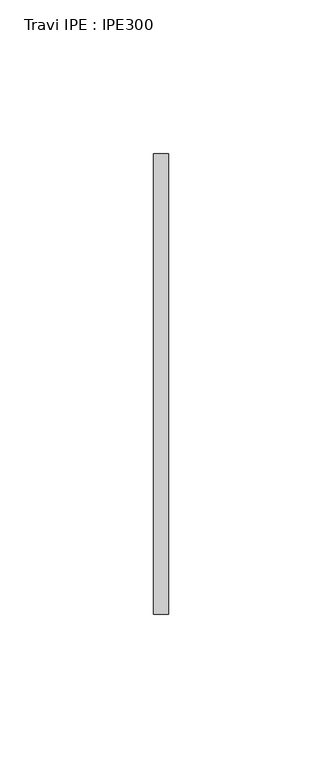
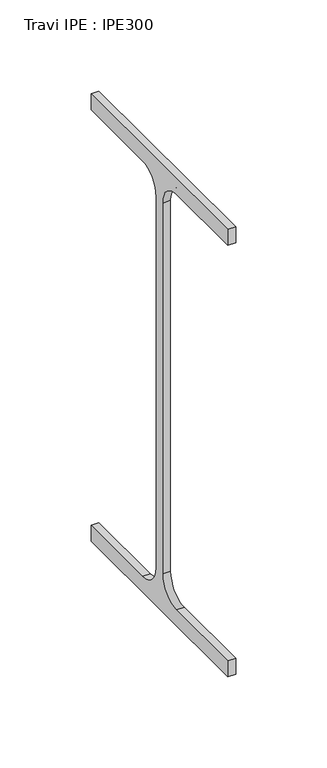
"""IFC4 building model written with IfcOpenShell, lengths in millimetres: beam geometry, Travi IPE : IPE300."""

from ifc_helpers import new_model, si_unit, point, frame, frame_2d, origin, place, context, project, spatial, polyline, circle_curve, trimmed, segment, composite_curve, outline, extrude, source, transform, mapped, element, save


def travi_ipe_ipe300_970f63a0(model_context):
    return source(origin(), model_context, "Body", "SweptSolid", [
        extrude(outline(composite_curve([segment(polyline([(75.0, -139.3), (75.0, -150.0), (-75.0, -150.0), (-75.0, -139.3), (-18.55, -139.3)]), True, "CONTINUOUS"), segment(trimmed(circle_curve(frame_2d((-18.55, -124.3)), 15.0), [point((-18.55, -139.3))], [point((-3.55, -124.3))], True, "CARTESIAN"), True, "CONTINUOUS"), segment(polyline([(-3.55, -124.3), (-3.55, 124.3)]), True, "CONTINUOUS"), segment(trimmed(circle_curve(frame_2d((-18.55, 124.3)), 15.0), [point((-3.55, 124.3))], [point((-18.55, 139.3))], True, "CARTESIAN"), True, "CONTINUOUS"), segment(polyline([(-18.55, 139.3), (-75.0, 139.3), (-75.0, 150.0), (75.0, 150.0), (75.0, 139.3), (18.55, 139.3)]), True, "CONTINUOUS"), segment(trimmed(circle_curve(frame_2d((18.55, 124.3)), 15.0), [point((18.55, 139.3))], [point((3.55, 124.3))], True, "CARTESIAN"), True, "CONTINUOUS"), segment(polyline([(3.55, 124.3), (3.55, -124.3)]), True, "CONTINUOUS"), segment(trimmed(circle_curve(frame_2d((18.55, -124.3)), 15.0), [point((3.55, -124.3))], [point((18.55, -139.3))], True, "CARTESIAN"), True, "CONTINUOUS"), segment(polyline([(18.55, -139.3), (75.0, -139.3)]), True, "CONTINUOUS")], self_intersect=False)), frame((-167.0, 0.0, 0.0), z_axis=(1.0, 0.0, 0.0), x_axis=(0.0, 1.0, 0.0)), (0.0, 0.0, 1.0), 5.0),
    ])


if __name__ == "__main__":
    model = new_model("IFC4")
    model_context = context("Model", 3, world=origin())
    ifc_project = project(units=[si_unit("LENGTHUNIT", "METRE", prefix="MILLI")], contexts=[model_context])
    site = spatial("IfcSite", under=ifc_project)
    building = spatial("IfcBuilding", under=site)
    placement = place(None, origin())
    travi_ipe_ipe300_shape = travi_ipe_ipe300_970f63a0(model_context)
    element("IfcBeam", 1, ObjectType="Travi IPE : IPE300", at=placement, inside=building, context=model_context, shape_type="MappedRepresentation", body=[
        mapped(travi_ipe_ipe300_shape, transform((0.0, 0.0, 0.0), x_axis=(1.0, 0.0, 0.0), y_axis=(0.0, 1.0, 0.0), z_axis=(0.0, 0.0, 1.0))),
    ])
    save(model, "model.ifc")
